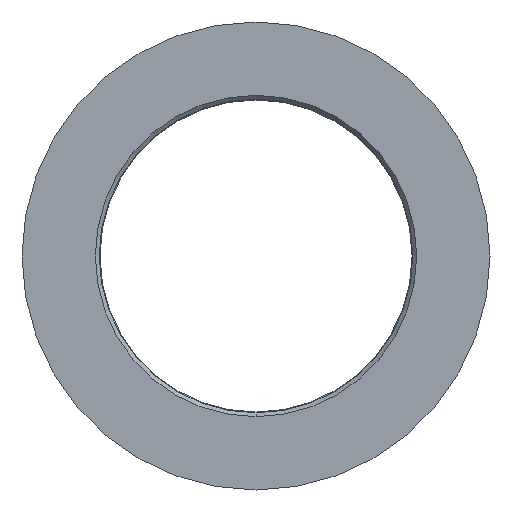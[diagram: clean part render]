
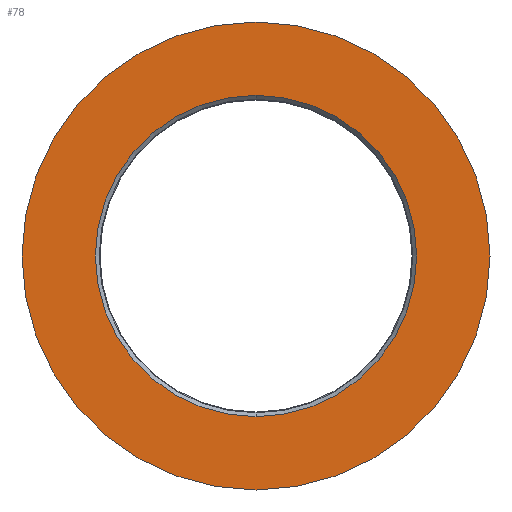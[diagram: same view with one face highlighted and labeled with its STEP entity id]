
A CAD part, front view. The second image highlights one B-rep face of the part: STEP entity #78.
In plain terms, the highlighted planar face has unit normal (0, -1, 0).
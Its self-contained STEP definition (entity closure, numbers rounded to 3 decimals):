
#9 = ORIENTED_EDGE ( 'NONE', *, *, #148, .T. ) ;
#17 = CIRCLE ( 'NONE', #191, 20.6 ) ;
#20 = AXIS2_PLACEMENT_3D ( 'NONE', #113, #109, #104 ) ;
#32 = CARTESIAN_POINT ( 'NONE',  ( 0., -10., 0. ) ) ;
#51 = EDGE_CURVE ( 'NONE', #136, #459, #326, .T. ) ;
#52 = DIRECTION ( 'NONE',  ( 0., -1., 0. ) ) ;
#59 = DIRECTION ( 'NONE',  ( 0., 1., 0. ) ) ;
#72 = PLANE ( 'NONE',  #349 ) ;
#74 = EDGE_LOOP ( 'NONE', ( #151, #407 ) ) ;
#78 = ADVANCED_FACE ( 'NONE', ( #422, #182 ), #72, .F. ) ;
#88 = DIRECTION ( 'NONE',  ( 0., 0., -1. ) ) ;
#104 = DIRECTION ( 'NONE',  ( 0., 0., 1. ) ) ;
#109 = DIRECTION ( 'NONE',  ( 0., 1., 0. ) ) ;
#111 = VERTEX_POINT ( 'NONE', #530 ) ;
#113 = CARTESIAN_POINT ( 'NONE',  ( 0., -10., 0. ) ) ;
#119 = VERTEX_POINT ( 'NONE', #253 ) ;
#121 = CARTESIAN_POINT ( 'NONE',  ( -20.1, -10., 0. ) ) ;
#136 = VERTEX_POINT ( 'NONE', #372 ) ;
#148 = EDGE_CURVE ( 'NONE', #111, #119, #440, .T. ) ;
#151 = ORIENTED_EDGE ( 'NONE', *, *, #245, .T. ) ;
#182 = FACE_OUTER_BOUND ( 'NONE', #363, .T. ) ;
#191 = AXIS2_PLACEMENT_3D ( 'NONE', #483, #446, #482 ) ;
#238 = CARTESIAN_POINT ( 'NONE',  ( 0., -10., -20.6 ) ) ;
#243 = ORIENTED_EDGE ( 'NONE', *, *, #291, .T. ) ;
#245 = EDGE_CURVE ( 'NONE', #459, #136, #17, .T. ) ;
#253 = CARTESIAN_POINT ( 'NONE',  ( 0., -10., 30. ) ) ;
#291 = EDGE_CURVE ( 'NONE', #119, #111, #428, .T. ) ;
#297 = DIRECTION ( 'NONE',  ( 0., 0., -1. ) ) ;
#326 = CIRCLE ( 'NONE', #20, 20.6 ) ;
#335 = AXIS2_PLACEMENT_3D ( 'NONE', #32, #378, #297 ) ;
#349 = AXIS2_PLACEMENT_3D ( 'NONE', #121, #59, #528 ) ;
#352 = CARTESIAN_POINT ( 'NONE',  ( 0., -10., 0. ) ) ;
#363 = EDGE_LOOP ( 'NONE', ( #9, #243 ) ) ;
#372 = CARTESIAN_POINT ( 'NONE',  ( 0., -10., 20.6 ) ) ;
#378 = DIRECTION ( 'NONE',  ( 0., -1., 0. ) ) ;
#407 = ORIENTED_EDGE ( 'NONE', *, *, #51, .T. ) ;
#422 = FACE_BOUND ( 'NONE', #74, .T. ) ;
#428 = CIRCLE ( 'NONE', #521, 30. ) ;
#440 = CIRCLE ( 'NONE', #335, 30. ) ;
#446 = DIRECTION ( 'NONE',  ( 0., 1., 0. ) ) ;
#459 = VERTEX_POINT ( 'NONE', #238 ) ;
#482 = DIRECTION ( 'NONE',  ( 0., 0., 1. ) ) ;
#483 = CARTESIAN_POINT ( 'NONE',  ( 0., -10., 0. ) ) ;
#521 = AXIS2_PLACEMENT_3D ( 'NONE', #352, #52, #88 ) ;
#528 = DIRECTION ( 'NONE',  ( 0., 0., 1. ) ) ;
#530 = CARTESIAN_POINT ( 'NONE',  ( 0., -10., -30. ) ) ;
